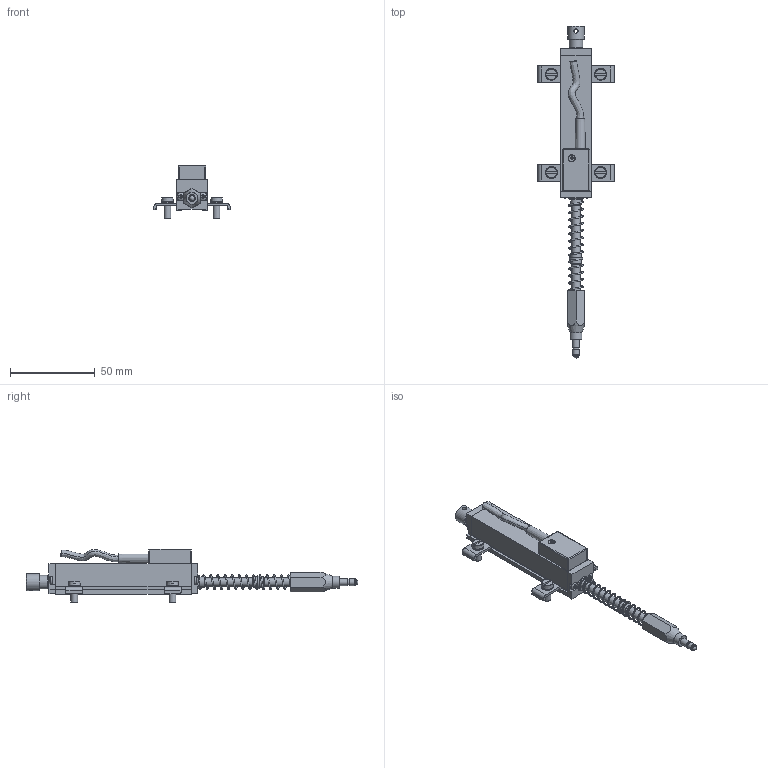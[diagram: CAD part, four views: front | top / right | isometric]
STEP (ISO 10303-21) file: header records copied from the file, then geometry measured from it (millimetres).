
FILE_DESCRIPTION( ( 'Unknown' ), '1' );
FILE_NAME( 'P:/Fertigung_TTS/2_TTS/1_CAD-Daten/4_Handelsware/3_Linearpotentiometer/LRW2_LRW3/4_Step/LRW2-F-50-S.stp', 'Unknown', ( 'WayCon' ), ( 'WayCon Positionsmesstechnik' ), 'PSStep 17.0.49', 'Unknown', ' ' );
FILE_SCHEMA( ( 'AUTOMOTIVE_DESIGN { 1 0 10303 214 1 1 1 1 }' ) );
Length unit declared in the file: millimetre
Products named in the file (33): MIM600X; MIM892X_ISO 1207 - M4 x 10 --- 10S; BUS023X; TES053X; BUS015X; TES045X; PRE040X; BUS022X; Molla PY compressa MIM401X_Posizione Lavoro; TAS000X_Assemblato; MIM797X_ISO 7046-1 - M2 x 10 - Z --- 10S; MIM828X_ISO 7045 - M2.5 x 8 - Z --- 8S; STA029X; MIM510X_DIN 6905-3.6-FSt; PAS000X; PMI-SLIM cavoX; CUS046X; ALB061X; PUN001X
Bounding box: 45 x 195.99 x 31.7 mm (x, y, z)
Volume: 932 mm3; surface area: 19637.5 mm2
Topology: 6 solids, 385 shells, 442 faces, 1974 edges, 1868 vertices
Faces by surface type: plane 276, cylinder 81, cone 52, torus 20, sphere 9, bspline 4
Full cylindrical faces by diameter (mm): 2.5 x2, 3.2 x1, 3.8 x3, 4 x10, 4.2 x1, 4.3 x4, 5 x5, 5.1 x3, 6.3 x4, 7 x2, 7.8 x3, 8 x1, 8.5 x1, 10 x1
Entity records: 26663 total; most frequent: CARTESIAN_POINT 7911, DIRECTION 3293, ORIENTED_EDGE 1942, EDGE_CURVE 1840, VERTEX_POINT 1824, AXIS2_PLACEMENT_3D 1188, LINE 917, VECTOR 917
